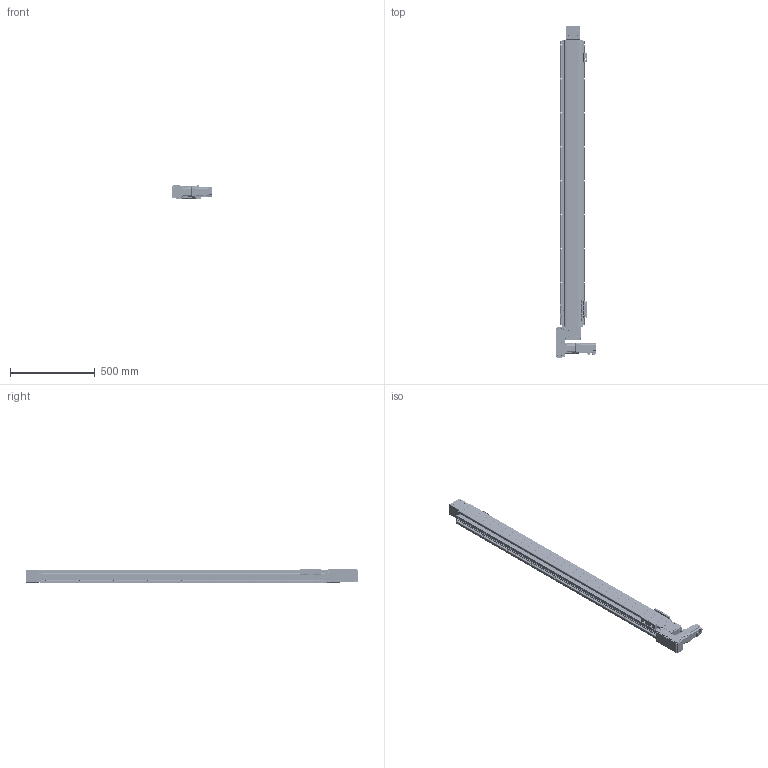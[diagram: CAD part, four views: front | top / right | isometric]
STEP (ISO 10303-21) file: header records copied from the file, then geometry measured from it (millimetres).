
FILE_DESCRIPTION(/* description */ (''),/* implementation_level */ '2;1');
FILE_NAME(/* name */ '\\192.168.0.160\disk1\HAN SHIN Master\B-설계부문\C-표준\B-2024년\BC02-표준도면\+로봇 개선표준도면\홈페이지 표준 도면\홈페이지 최종 작업 폴더\3D\HSB\HSB125\HSB125-L4G-N-1500-R.stp',/* time_stamp */ '2025-01-10T19:39:53+09:00',/* author */ ('user'),/* organization */ (''),/* preprocessor_version */ 'ST-DEVELOPER v18.1',/* originating_system */ 'Autodesk Inventor 2022',/* authorisation */ '');
FILE_SCHEMA (('AUTOMOTIVE_DESIGN { 1 0 10303 214 3 1 1 }'));
Products named in the file (32): HSB125-L4G-N-0500-R; BASE; REAR COVER; HSB125 FORNT HOUSUNG (Connecting); HSB160 SHAFT-1; HSB160 BEARING OVER; NSK_6205; HSB160 REAR SHAFT-2; REAR SHAFT--2; HSB125 REAR HOUSUNG; TENSION PLATE; HSB160 ARC COVER; UPCOVER; hsr_ftht_A-M6F_grease_nipple_joint; HR120 SENSOR DOG; NIPPLE CAP(신규); 6003ZZ; HSB125 TABLE (TEST); HG90STOPPER - 17L; HSB125 END COVER; SIDE COVER; SENSOR BRK(EE-SX674A); EE_SX674A; PGX62-H-1_3; hg-kr43_; HSB125 L; HR120 LR MOTOR PLATE (400W)-사출; MOTOR PLATE - 200W; HR120 LR BELT COVER; HR160 ACRYL COVER - 1; HR160 ACRYL COVER - 1_1; HR160 ACRYL COVER - 1_2
Assembly tree (53 placements, depth 3):
  HSB125-L4G-N-0500-R
    BASE
    REAR COVER  x2
    HSB125 FORNT HOUSUNG (Connecting)
    HSB160 SHAFT-1
    HSB160 BEARING OVER
    NSK_6205  x2
    HSB160 REAR SHAFT-2
    REAR SHAFT--2
    HSB125 REAR HOUSUNG
    TENSION PLATE  x2
    HSB160 ARC COVER  x4
    HG90STOPPER - 17L  x4
    UPCOVER
    NIPPLE CAP(신규)  x4
    hsr_ftht_A-M6F_grease_nipple_joint  x4
    SENSOR BRK(EE-SX674A)  x3
    EE_SX674A  x3
    HR120 SENSOR DOG
    6003ZZ  x2
    HSB125 TABLE (TEST)
    HSB125 END COVER
    SIDE COVER  x2
    PGX62-H-1_3
    hg-kr43_
    HSB125 L
      HR120 LR MOTOR PLATE (400W)-사출
      MOTOR PLATE - 200W
      HR120 LR BELT COVER
      HR160 ACRYL COVER - 1
      HR160 ACRYL COVER - 1_1
      HR160 ACRYL COVER - 1_2  x2
Bounding box: 233.3 x 1954.5 x 85 mm (x, y, z)
Volume: 6619266.8 mm3; surface area: 2291635.1 mm2
Topology: 117 solids, 117 shells, 6769 faces, 18804 edges, 12381 vertices
Faces by surface type: plane 4895, cylinder 1359, cone 355, sphere 72, torus 61, bspline 27
Full cylindrical faces by diameter (mm): 2.459 x74, 3 x20, 3.242 x60, 3.3 x5, 3.4 x40, 3.5 x6, 4 x9, 4.134 x38, 4.2 x10, 4.5 x37, 4.917 x26, 5 x20, 5.5 x55, 5.6 x4, 5.8 x4, 5.9 x8, 6 x12, 6.5 x8, 6.647 x18, 7 x1, 7.5 x24, 8 x4, 8.5 x4, 9 x4, 9.2 x4, 9.5 x27, 12 x2, 14 x1, 14.2 x1, 15 x4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
Entity records: 153952 total; most frequent: CARTESIAN_POINT 30476, ORIENTED_EDGE 25508, DIRECTION 24631, EDGE_CURVE 12754, LINE 9501, VECTOR 9501, VERTEX_POINT 8482, AXIS2_PLACEMENT_3D 7565
